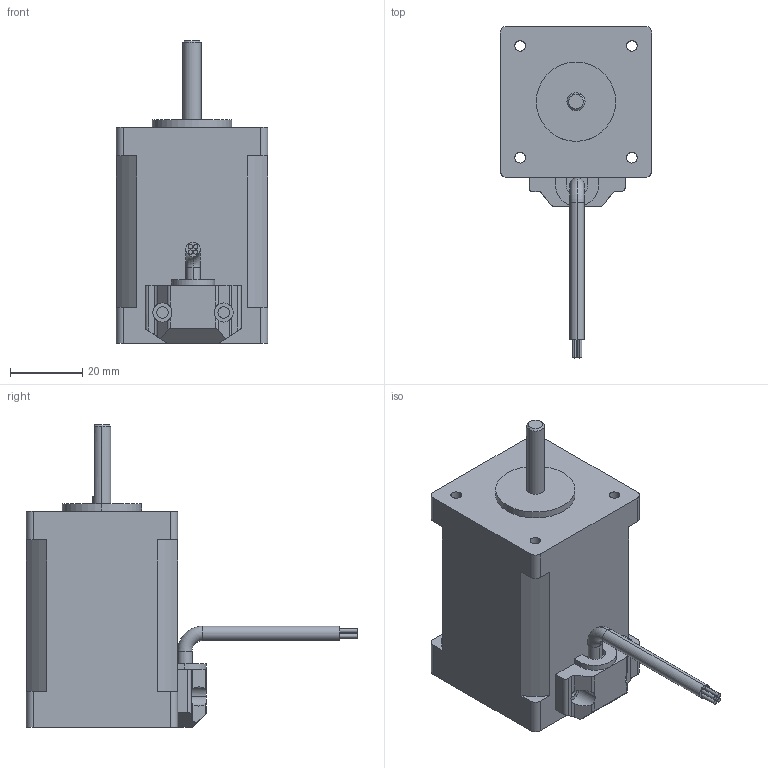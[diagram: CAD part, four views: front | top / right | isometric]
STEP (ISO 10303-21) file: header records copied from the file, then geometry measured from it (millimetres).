
FILE_DESCRIPTION (( 'STEP AP203' ), '1' );
FILE_NAME ('42HS260-2.5-4A-003.STEP', '2020-03-03T02:19:39', ( 'User' ), ( 'China' ), 'SwSTEP 2.0', 'SolidWorks 2017', '' );
FILE_SCHEMA (( 'CONFIG_CONTROL_DESIGN' ));
Length unit declared in the file: millimetre
Products named in the file (1): 42HS260-2.5-4A-003
Bounding box: 42 x 92 x 84 mm (x, y, z)
Volume: 105886.5 mm3; surface area: 17959.8 mm2
Topology: 2 solids, 2 shells, 113 faces, 296 edges, 194 vertices
Faces by surface type: cylinder 56, plane 52, cone 3, torus 2
Entity records: 3651 total; most frequent: CARTESIAN_POINT 706, DIRECTION 614, ORIENTED_EDGE 592, EDGE_CURVE 296, AXIS2_PLACEMENT_3D 224, VERTEX_POINT 194, LINE 166, VECTOR 166
